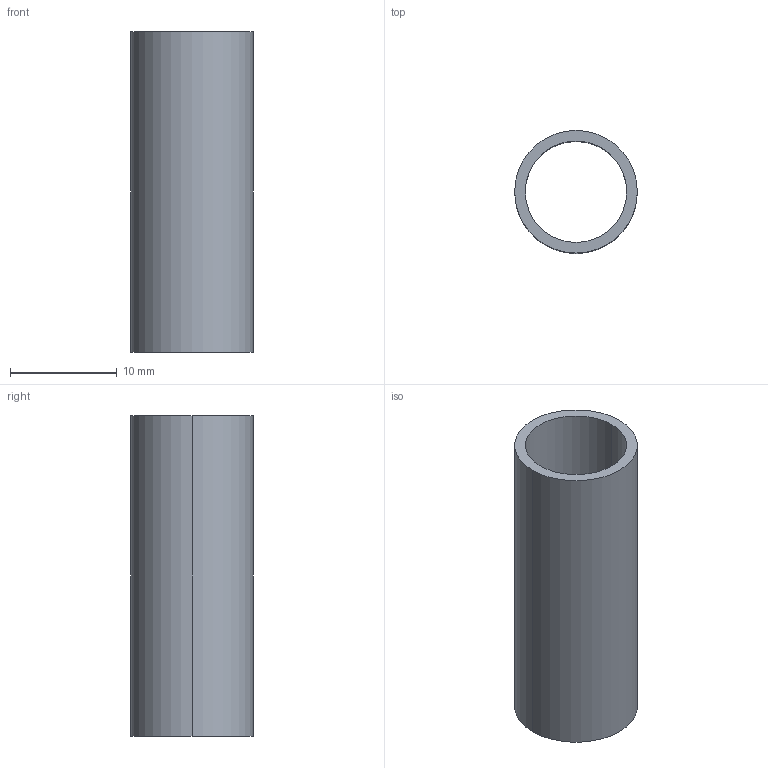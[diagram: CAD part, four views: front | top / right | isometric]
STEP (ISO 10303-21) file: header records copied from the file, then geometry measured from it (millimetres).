
FILE_DESCRIPTION (( 'STEP AP214' ), '1' );
FILE_NAME ('Rohr_Ø11,5.STEP', '2015-11-23T15:26:19', ( 'HP' ), ( 'Hewlett-Packard Company' ), 'SwSTEP 2.0', 'SolidWorks 2014', '' );
FILE_SCHEMA (( 'AUTOMOTIVE_DESIGN' ));
Length unit declared in the file: millimetre
Products named in the file (1): Rohr_ﾘ11,5
Bounding box: 11.5 x 11.5 x 30 mm (x, y, z)
Volume: 989.6 mm3; surface area: 2045.2 mm2
Topology: 1 solids, 1 shells, 6 faces, 12 edges, 8 vertices
Faces by surface type: cylinder 4, plane 2
Entity records: 268 total; most frequent: DIRECTION 34, CARTESIAN_POINT 27, ORIENTED_EDGE 24, AXIS2_PLACEMENT_3D 15, EDGE_CURVE 12, UNCERTAINTY_MEASURE_WITH_UNIT 9, MECHANICAL_DESIGN_GEOMETRIC_PRESENTATION_REPRESENTATION 8, FILL_AREA_STYLE_COLOUR 8
